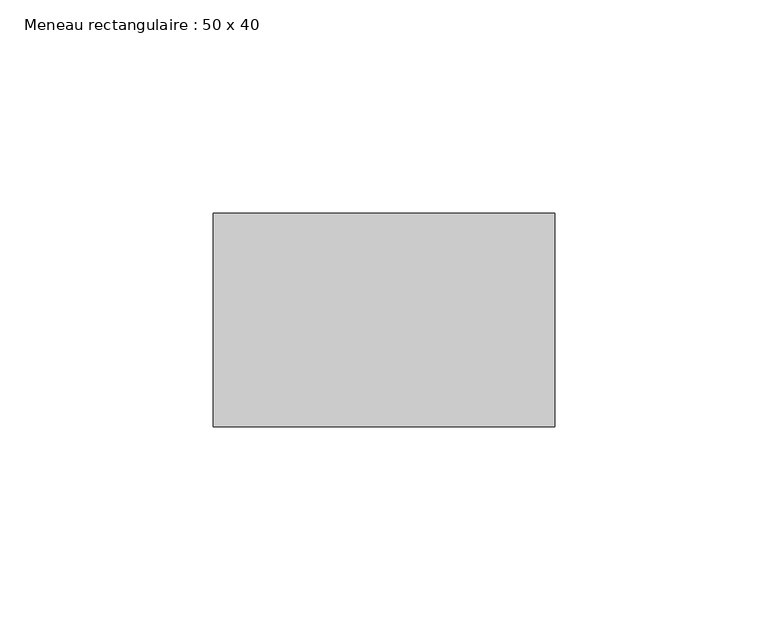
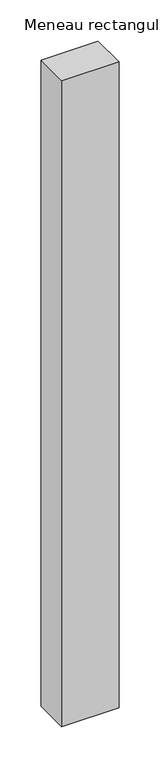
"""IFC4 building model written with IfcOpenShell, lengths in millimetres: member geometry, Meneau rectangulaire : 50 x 40."""

import ifcopenshell
import ifcopenshell.guid

model = None  # the IFC model being written
_history = None  # IfcOwnerHistory: only IFC2X3 demands one
_inside = {}  # id of a spatial element -> (the spatial element, [elements in it])
_under = {}  # id of a project, library or spatial element -> (it, [spatial elements below it])
_declared = {}  # id of a project -> (the project, [libraries it declares])
_typed = {}  # id of a type object -> (the type object, [elements of that type])
_made_of = {}  # id of a material, layer set ... -> (it, [elements and type objects made of it])


def new_model(schema):
    """Start an empty IFC model of exactly this schema.

    Asked for "IFC4X3", IfcOpenShell would pick the latest addendum, in which some entities
    have other attributes; the version numbers below select the first issue.
    IFC2X3 requires an IfcOwnerHistory on every rooted entity: one is made here for all.
    """
    global model, _history
    if schema == "IFC4X3":
        model = ifcopenshell.file(schema_version=(4, 3, 0, 0))
    else:
        model = ifcopenshell.file(schema=schema)
    _inside.clear()
    _under.clear()
    _declared.clear()
    _typed.clear()
    _made_of.clear()
    _history = None
    if model.schema == "IFC2X3":
        org = make("IfcOrganization", Name="unknown")
        user = make(
            "IfcPersonAndOrganization",
            ThePerson=make("IfcPerson", FamilyName="unknown"),
            TheOrganization=org,
        )
        app = make(
            "IfcApplication",
            ApplicationDeveloper=org,
            Version="unknown",
            ApplicationFullName="unknown",
            ApplicationIdentifier="unknown",
        )
        _history = make(
            "IfcOwnerHistory",
            OwningUser=user,
            OwningApplication=app,
            ChangeAction="ADDED",
            CreationDate=0,
        )
    return model


def make(cls, **values):
    """One entity of the class cls with the attributes given. An attribute that is None is left unset."""
    return model.create_entity(
        cls, **{name: value for name, value in values.items() if value is not None}
    )


def rooted(cls, **values):
    """An entity with a GlobalId (a new one), such as an element, a storey or a relation."""
    return make(cls, GlobalId=ifcopenshell.guid.new(), OwnerHistory=_history, **values)


def si_unit(unit_type, name, prefix=None):
    """IfcSIUnit, for example si_unit("LENGTHUNIT", "METRE", prefix="MILLI")."""
    return make("IfcSIUnit", UnitType=unit_type, Prefix=prefix, Name=name)


def assignment(units):
    """IfcUnitAssignment: the units of a project."""
    return None if units is None else make("IfcUnitAssignment", Units=units)


def point(xyz):
    """IfcCartesianPoint."""
    return None if xyz is None else make("IfcCartesianPoint", Coordinates=xyz)


def direction(xyz):
    """IfcDirection."""
    return None if xyz is None else make("IfcDirection", DirectionRatios=xyz)


def frame(location, z_axis=None, x_axis=None):
    """IfcAxis2Placement3D, a coordinate frame: its origin and axes. An axis left out is left unset."""
    return make(
        "IfcAxis2Placement3D",
        Location=point(location),
        Axis=direction(z_axis),
        RefDirection=direction(x_axis),
    )


def origin():
    """The frame at (0, 0, 0) with its axes left unset."""
    return frame((0.0, 0.0, 0.0))


def place(relative_to, where):
    """IfcLocalPlacement: puts the frame where relative to a parent placement (None: the world)."""
    return make(
        "IfcLocalPlacement", PlacementRelTo=relative_to, RelativePlacement=where
    )


def context(
    kind, dimensions, precision=None, world=None, true_north=None, identifier=None
):
    """IfcGeometricRepresentationContext, for example the 3D "Model" context."""
    return make(
        "IfcGeometricRepresentationContext",
        ContextIdentifier=identifier,
        ContextType=kind,
        CoordinateSpaceDimension=dimensions,
        Precision=precision,
        WorldCoordinateSystem=world,
        TrueNorth=true_north,
    )


def project(units=None, contexts=None):
    """IfcProject with its units and contexts."""
    return rooted(
        "IfcProject",
        Name="project",
        RepresentationContexts=contexts,
        UnitsInContext=assignment(units),
    )


def spatial(cls, under=None, at=None, **own):
    """A site, building, storey or space (cls), placed at a placement, below another one or the project."""
    s = rooted(cls, ObjectPlacement=at, **own)
    if under is not None:
        _under.setdefault(under.id(), (under, []))[1].append(s)
    return s


def polyline(points):
    """IfcPolyline through the points."""
    return make("IfcPolyline", Points=[point(p) for p in points])


def outline(outer, holes=None, kind="AREA"):
    """IfcArbitraryClosedProfileDef: a profile drawn as a closed curve; with holes, ...WithVoids."""
    if holes is None:
        return make("IfcArbitraryClosedProfileDef", ProfileType=kind, OuterCurve=outer)
    return make(
        "IfcArbitraryProfileDefWithVoids",
        ProfileType=kind,
        OuterCurve=outer,
        InnerCurves=holes,
    )


def extrude(swept, where, along, depth):
    """IfcExtrudedAreaSolid: the profile swept, set in the frame where, extruded along a direction by depth."""
    return make(
        "IfcExtrudedAreaSolid",
        SweptArea=swept,
        Position=where,
        ExtrudedDirection=direction(along),
        Depth=depth,
    )


def shape(context_of_items, identifier, shape_type, items):
    """IfcShapeRepresentation: the items that make up one representation, for example the "Body"."""
    return make(
        "IfcShapeRepresentation",
        ContextOfItems=context_of_items,
        RepresentationIdentifier=identifier,
        RepresentationType=shape_type,
        Items=items,
    )


def source(mapping_origin, context_of_items, identifier, shape_type, items):
    """IfcRepresentationMap: a shape defined once, which mapped items show again and again."""
    return make(
        "IfcRepresentationMap",
        MappingOrigin=mapping_origin,
        MappedRepresentation=shape(context_of_items, identifier, shape_type, items),
    )


def transform(
    local_origin,
    x_axis=None,
    y_axis=None,
    z_axis=None,
    scale=None,
    scale2=None,
    scale3=None,
    uniform=True,
):
    """IfcCartesianTransformationOperator3D, or its non-uniform kind. x_axis, y_axis, z_axis: its Axis1, 2, 3."""
    if uniform:
        return make(
            "IfcCartesianTransformationOperator3D",
            Axis1=direction(x_axis),
            Axis2=direction(y_axis),
            LocalOrigin=point(local_origin),
            Scale=scale,
            Axis3=direction(z_axis),
        )
    return make(
        "IfcCartesianTransformationOperator3DnonUniform",
        Axis1=direction(x_axis),
        Axis2=direction(y_axis),
        LocalOrigin=point(local_origin),
        Scale=scale,
        Axis3=direction(z_axis),
        Scale2=scale2,
        Scale3=scale3,
    )


def mapped(mapping_source, mapping_target):
    """IfcMappedItem: shows the shape of a source again, moved by a transform."""
    return make(
        "IfcMappedItem", MappingSource=mapping_source, MappingTarget=mapping_target
    )


def made_of(thing, what):
    """Note that an element or type object is made of a material, layer set ...; save() writes the relation."""
    if what is not None:
        _made_of.setdefault(what.id(), (what, []))[1].append(thing)
    return thing


def element(
    cls,
    number,
    at=None,
    inside=None,
    cuts=None,
    type_object=None,
    material=None,
    context=None,
    identifier="Body",
    shape_type=None,
    held_by="IfcProductDefinitionShape",
    body=None,
    shapes=None,
    **own,
):
    """One element of the class cls, such as IfcWall. Its Tag is "e" and its number.

    at: its placement. inside: the storey or other place that contains it. cuts: it is an
    opening in that element (IfcRelVoidsElement). A single representation is given by context,
    identifier, shape_type and body (its items); several are given by shapes. held_by: the class
    of the entity that holds the representations. save() writes the other relations.
    """
    e = rooted(cls, Tag="e%d" % number, ObjectPlacement=at, **own)
    if body is not None:
        shapes = [shape(context, identifier, shape_type, body)]
    if shapes is not None:
        e.Representation = make(held_by, Representations=shapes)
    if inside is not None:
        _inside.setdefault(inside.id(), (inside, []))[1].append(e)
    if cuts is not None:
        rooted(
            "IfcRelVoidsElement", RelatingBuildingElement=cuts, RelatedOpeningElement=e
        )
    if type_object is not None:
        _typed.setdefault(type_object.id(), (type_object, []))[1].append(e)
    return made_of(e, material)


def aggregate(whole, parts):
    """IfcRelAggregates: a whole, such as a stair, and the parts it consists of."""
    return rooted("IfcRelAggregates", RelatingObject=whole, RelatedObjects=parts)


def save(model, path):
    """Write the relations noted so far, then the file.

    IfcRelAggregates (storeys below a building ...), IfcRelContainedInSpatialStructure (elements
    in a storey), IfcRelDefinesByType, IfcRelAssociatesMaterial and IfcRelDeclares: one each for
    every whole, place, type object, material and project.
    """
    for whole, parts in _under.values():
        aggregate(whole, parts)
    for where, things in _inside.values():
        rooted(
            "IfcRelContainedInSpatialStructure",
            RelatedElements=things,
            RelatingStructure=where,
        )
    for kind, things in _typed.values():
        rooted("IfcRelDefinesByType", RelatedObjects=things, RelatingType=kind)
    for what, things in _made_of.values():
        rooted("IfcRelAssociatesMaterial", RelatedObjects=things, RelatingMaterial=what)
    for by, libraries in _declared.values():
        rooted("IfcRelDeclares", RelatingContext=by, RelatedDefinitions=libraries)
    model.write(path)


def meneau_rectangulaire_50_x_40_7d306341(model_context):
    return source(origin(), model_context, "Body", "SweptSolid", [
        extrude(outline(polyline([(40.0, 0.0), (40.0, -50.0), (-40.0, -50.0), (-40.0, 0.0), (40.0, 0.0)])), frame((0.0, 0.0, -956.0), z_axis=(0.0, 0.0, 1.0), x_axis=(1.0, 0.0, 0.0)), (0.0, 0.0, 1.0), 956.0),
    ])


if __name__ == "__main__":
    model = new_model("IFC4")
    model_context = context("Model", 3, world=origin())
    ifc_project = project(units=[si_unit("LENGTHUNIT", "METRE", prefix="MILLI")], contexts=[model_context])
    site = spatial("IfcSite", under=ifc_project)
    building = spatial("IfcBuilding", under=site)
    placement = place(None, origin())
    meneau_rectangulaire_50_x_40_shape = meneau_rectangulaire_50_x_40_7d306341(model_context)
    element("IfcMember", 1, ObjectType="Meneau rectangulaire : 50 x 40", at=placement, inside=building, context=model_context, shape_type="MappedRepresentation", body=[
        mapped(meneau_rectangulaire_50_x_40_shape, transform((0.0, 0.0, 0.0), x_axis=(1.0, 0.0, 0.0), y_axis=(0.0, 1.0, 0.0), z_axis=(0.0, 0.0, 1.0))),
    ])
    save(model, "model.ifc")
